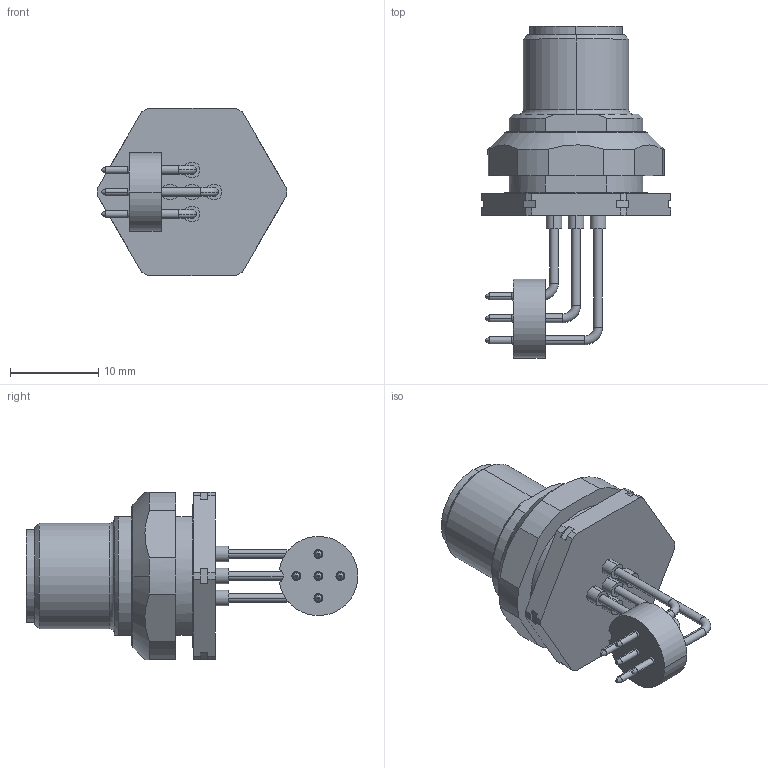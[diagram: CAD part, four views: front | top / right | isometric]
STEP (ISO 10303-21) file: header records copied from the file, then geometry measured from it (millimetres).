
FILE_DESCRIPTION (( 'STEP AP203' ), '1' );
FILE_NAME ('WFSD_4_5-PCB.step', '2015-07-14T19:11:39', ( 'Turck User' ), ( '' ), 'SwSTEP 2.0', 'SolidWorks 2014', '' );
FILE_SCHEMA (( 'CONFIG_CONTROL_DESIGN' ));
Length unit declared in the file: millimetre
Products named in the file (2): WFSD_4_5-PCB
Bounding box: 21.5 x 37.7 x 19 mm (x, y, z)
Volume: 3832.5 mm3; surface area: 3357.4 mm2
Topology: 1 solids, 2 shells, 225 faces, 547 edges, 347 vertices
Faces by surface type: cylinder 89, plane 76, cone 44, torus 16
Entity records: 6853 total; most frequent: DIRECTION 1242, CARTESIAN_POINT 1201, ORIENTED_EDGE 1094, EDGE_CURVE 547, AXIS2_PLACEMENT_3D 488, VERTEX_POINT 347, VECTOR 266, LINE 266
